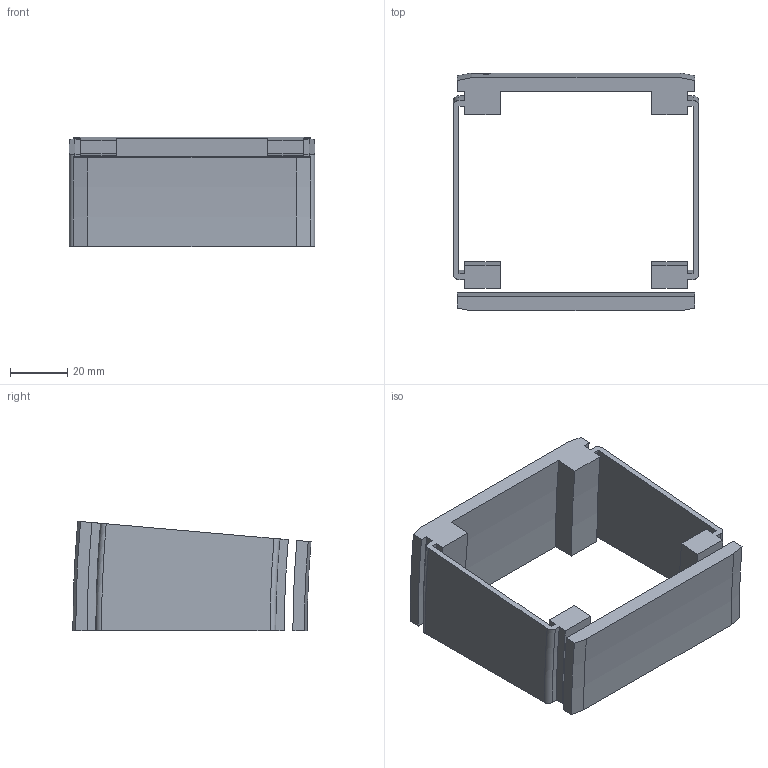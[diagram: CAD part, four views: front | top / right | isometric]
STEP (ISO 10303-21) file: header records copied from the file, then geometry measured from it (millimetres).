
FILE_DESCRIPTION((''),'2;1');
FILE_NAME('C:\Vault Klient\Projekt\Koncept konstruktion\Serie 530 Balk\530-5600_DOWN.stp','2010-11-23T11:27:25',('Mathias'),(''),'Autodesk Inventor 2011','Autodesk Inventor 2011','');
FILE_SCHEMA(('AUTOMOTIVE_DESIGN { 1 0 10303 214 1 1 1 1 }'));
Length unit declared in the file: millimetre
Products named in the file (1): 530-5600_DOWN
Bounding box: 86 x 83.36 x 38.3 mm (x, y, z)
Volume: 51710.6 mm3; surface area: 27878 mm2
Topology: 2 solids, 2 shells, 87 faces, 234 edges, 156 vertices
Faces by surface type: plane 40, cylinder 25, bspline 14, cone 4, torus 4
Entity records: 3154 total; most frequent: CARTESIAN_POINT 916, ORIENTED_EDGE 468, DIRECTION 428, EDGE_CURVE 234, VERTEX_POINT 156, AXIS2_PLACEMENT_3D 148, VECTOR 132, LINE 132
